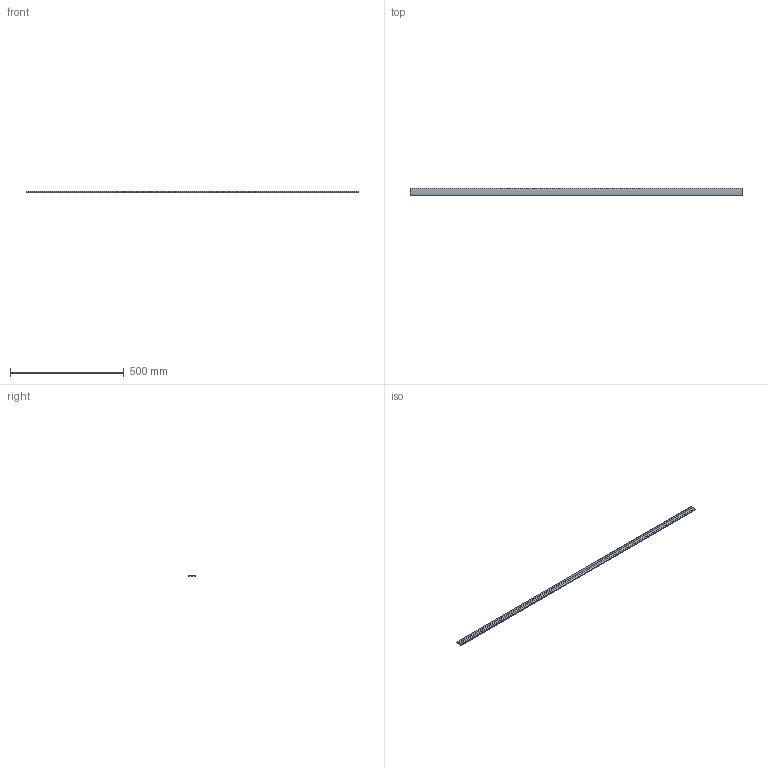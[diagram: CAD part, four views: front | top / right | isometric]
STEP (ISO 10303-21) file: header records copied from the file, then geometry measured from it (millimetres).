
FILE_DESCRIPTION( ( 'Unknown' ), '1' );
FILE_NAME( 'Z:/Datenaustausch/a/01V-Q3R-02.stp', 'Unknown', ( 'Unknown' ), ( 'BJB GmbH & Co. KG' ), 'PSStep 14.0', 'Unknown', ' ' );
FILE_SCHEMA( ( 'AUTOMOTIVE_DESIGN { 1 0 10303 214 1 1 1 1 }' ) );
Length unit declared in the file: millimetre
Products named in the file (1): 1
Bounding box: 1457.6 x 30.9 x 5.29 mm (x, y, z)
Volume: 106186.7 mm3; surface area: 111876.2 mm2
Topology: 1 solids, 1 shells, 27 faces, 75 edges, 50 vertices
Faces by surface type: plane 18, cylinder 9
Entity records: 1099 total; most frequent: CARTESIAN_POINT 153, ORIENTED_EDGE 150, DIRECTION 149, EDGE_CURVE 75, LINE 57, VECTOR 57, VERTEX_POINT 50, AXIS2_PLACEMENT_3D 46
